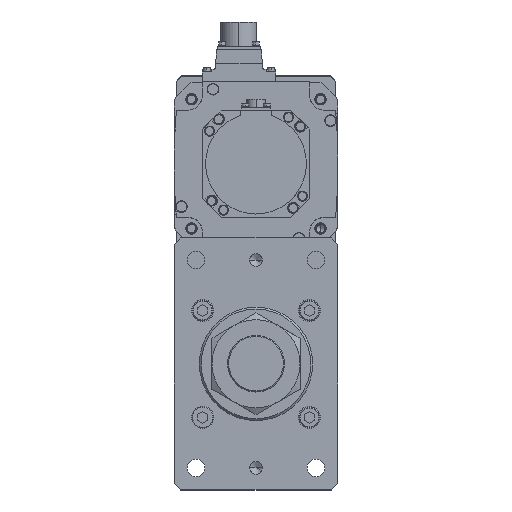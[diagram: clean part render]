
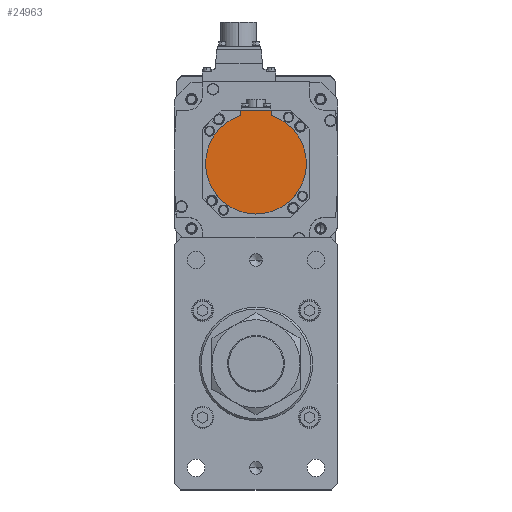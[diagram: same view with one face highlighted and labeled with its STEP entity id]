
A CAD part, top view. The second image highlights one B-rep face of the part: STEP entity #24963.
In plain terms, the highlighted planar face has unit normal (0, 0, 1) as drawn and (0, 0, -1) by its records, which use the part's own axes.
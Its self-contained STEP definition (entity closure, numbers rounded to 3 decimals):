
#151 = CARTESIAN_POINT ( 'NONE',  ( 0., 0., -146.5 ) ) ;
#871 = DIRECTION ( 'NONE',  ( 0., 0., 1. ) ) ;
#1964 = DIRECTION ( 'NONE',  ( 1., 0., 0. ) ) ;
#2196 = DIRECTION ( 'NONE',  ( 0., 0., 1. ) ) ;
#2223 = ORIENTED_EDGE ( 'NONE', *, *, #29842, .F. ) ;
#2864 = CARTESIAN_POINT ( 'NONE',  ( -12., -42.5, -146.5 ) ) ;
#3876 = VECTOR ( 'NONE', #27454, 1000. ) ;
#4150 = ORIENTED_EDGE ( 'NONE', *, *, #20486, .F. ) ;
#4614 = ORIENTED_EDGE ( 'NONE', *, *, #9689, .F. ) ;
#4709 = FACE_OUTER_BOUND ( 'NONE', #25559, .T. ) ;
#4730 = LINE ( 'NONE', #30401, #11038 ) ;
#7191 = VERTEX_POINT ( 'NONE', #24798 ) ;
#7193 = CIRCLE ( 'NONE', #33696, 40. ) ;
#7388 = AXIS2_PLACEMENT_3D ( 'NONE', #12915, #31605, #18535 ) ;
#7714 = CIRCLE ( 'NONE', #7388, 40. ) ;
#7966 = DIRECTION ( 'NONE',  ( 1., 0., 0. ) ) ;
#8409 = DIRECTION ( 'NONE',  ( 0., 0., 1. ) ) ;
#8494 = AXIS2_PLACEMENT_3D ( 'NONE', #24710, #871, #29970 ) ;
#8940 = CARTESIAN_POINT ( 'NONE',  ( -12., -38.158, -146.5 ) ) ;
#9464 = VERTEX_POINT ( 'NONE', #17807 ) ;
#9689 = EDGE_CURVE ( 'NONE', #19748, #7191, #16635, .T. ) ;
#11038 = VECTOR ( 'NONE', #22698, 1000. ) ;
#11513 = PLANE ( 'NONE',  #8494 ) ;
#11885 = CARTESIAN_POINT ( 'NONE',  ( 12., -42.5, -146.5 ) ) ;
#12915 = CARTESIAN_POINT ( 'NONE',  ( 0., 0., -146.5 ) ) ;
#12923 = ORIENTED_EDGE ( 'NONE', *, *, #24220, .F. ) ;
#16607 = VERTEX_POINT ( 'NONE', #11885 ) ;
#16635 = CIRCLE ( 'NONE', #22447, 40. ) ;
#16675 = VERTEX_POINT ( 'NONE', #8940 ) ;
#17271 = EDGE_CURVE ( 'NONE', #16607, #29174, #4730, .T. ) ;
#17807 = CARTESIAN_POINT ( 'NONE',  ( 12., -38.158, -146.5 ) ) ;
#18535 = DIRECTION ( 'NONE',  ( 1., 0., 0. ) ) ;
#19209 = CARTESIAN_POINT ( 'NONE',  ( 12., -1.249, -146.5 ) ) ;
#19748 = VERTEX_POINT ( 'NONE', #22244 ) ;
#20486 = EDGE_CURVE ( 'NONE', #9464, #19748, #7193, .T. ) ;
#20584 = CARTESIAN_POINT ( 'NONE',  ( 0., 0., -146.5 ) ) ;
#20681 = ORIENTED_EDGE ( 'NONE', *, *, #29796, .T. ) ;
#22244 = CARTESIAN_POINT ( 'NONE',  ( 40., 0., -146.5 ) ) ;
#22447 = AXIS2_PLACEMENT_3D ( 'NONE', #151, #8409, #7966 ) ;
#22698 = DIRECTION ( 'NONE',  ( -1., 0., 0. ) ) ;
#24220 = EDGE_CURVE ( 'NONE', #7191, #16675, #7714, .T. ) ;
#24710 = CARTESIAN_POINT ( 'NONE',  ( 0., -1.249, -146.5 ) ) ;
#24798 = CARTESIAN_POINT ( 'NONE',  ( -40., 0., -146.5 ) ) ;
#24963 = ADVANCED_FACE ( 'NONE', ( #4709 ), #11513, .F. ) ;
#25559 = EDGE_LOOP ( 'NONE', ( #20681, #12923, #4614, #4150, #2223, #26008 ) ) ;
#26008 = ORIENTED_EDGE ( 'NONE', *, *, #17271, .T. ) ;
#27454 = DIRECTION ( 'NONE',  ( 0., 1., 0. ) ) ;
#29174 = VERTEX_POINT ( 'NONE', #2864 ) ;
#29796 = EDGE_CURVE ( 'NONE', #29174, #16675, #30644, .T. ) ;
#29842 = EDGE_CURVE ( 'NONE', #16607, #9464, #31097, .T. ) ;
#29970 = DIRECTION ( 'NONE',  ( 1., 0., 0. ) ) ;
#30137 = DIRECTION ( 'NONE',  ( 0., 1., 0. ) ) ;
#30401 = CARTESIAN_POINT ( 'NONE',  ( 0., -42.5, -146.5 ) ) ;
#30644 = LINE ( 'NONE', #32464, #31509 ) ;
#31097 = LINE ( 'NONE', #19209, #3876 ) ;
#31509 = VECTOR ( 'NONE', #30137, 1000. ) ;
#31605 = DIRECTION ( 'NONE',  ( 0., 0., 1. ) ) ;
#32464 = CARTESIAN_POINT ( 'NONE',  ( -12., -40.329, -146.5 ) ) ;
#33696 = AXIS2_PLACEMENT_3D ( 'NONE', #20584, #2196, #1964 ) ;
